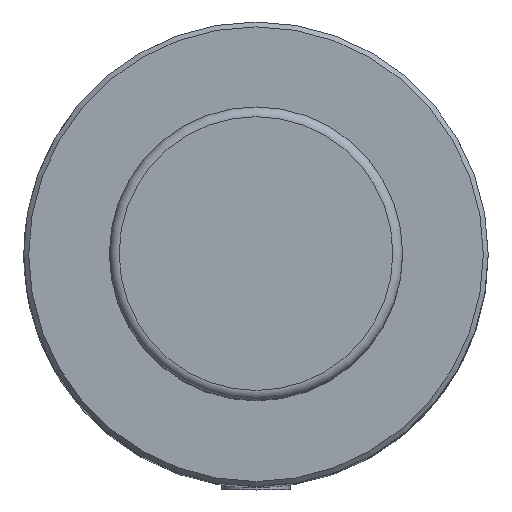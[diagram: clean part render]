
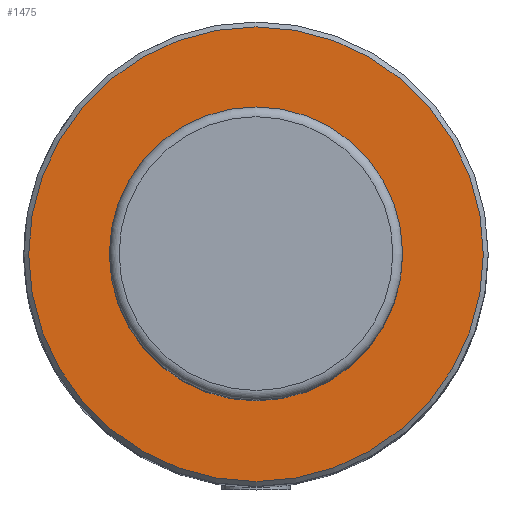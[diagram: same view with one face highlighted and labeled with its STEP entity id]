
A CAD part, top view. The second image highlights one B-rep face of the part: STEP entity #1475.
In plain terms, the highlighted planar face has unit normal (0, 0, 1).
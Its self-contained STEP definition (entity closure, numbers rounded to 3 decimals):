
#1455 = VERTEX_POINT('',#1456);
#1456 = CARTESIAN_POINT('',(46.5,0.,136.));
#1464 = EDGE_CURVE('',#1455,#1455,#1465,.T.);
#1465 = CIRCLE('',#1466,46.5);
#1466 = AXIS2_PLACEMENT_3D('',#1467,#1468,#1469);
#1467 = CARTESIAN_POINT('',(0.,0.,136.));
#1468 = DIRECTION('',(0.,0.,1.));
#1469 = DIRECTION('',(1.,0.,0.));
#1475 = ADVANCED_FACE('',(#1476),#1479,.T.);
#1476 = FACE_BOUND('',#1477,.T.);
#1477 = EDGE_LOOP('',(#1478));
#1478 = ORIENTED_EDGE('',*,*,#1464,.T.);
#1479 = PLANE('',#1480);
#1480 = AXIS2_PLACEMENT_3D('',#1481,#1482,#1483);
#1481 = CARTESIAN_POINT('',(0.,0.,136.));
#1482 = DIRECTION('',(0.,0.,1.));
#1483 = DIRECTION('',(1.,0.,0.));
